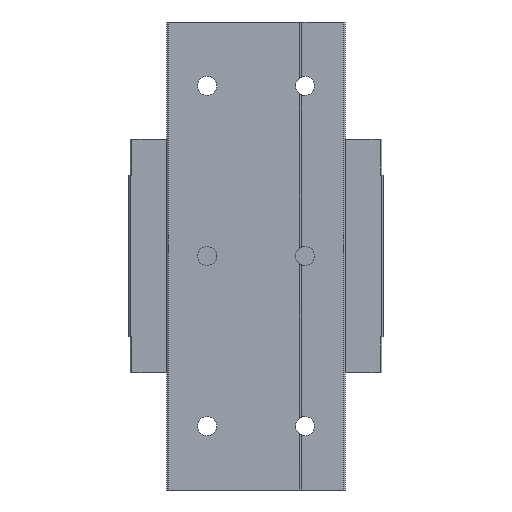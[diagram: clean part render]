
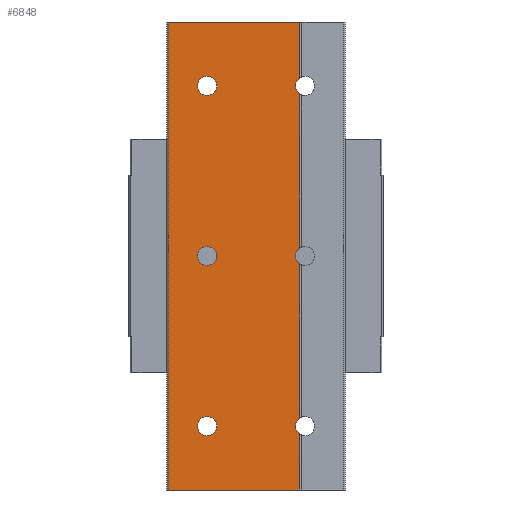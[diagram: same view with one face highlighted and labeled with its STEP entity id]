
A CAD part, front view. The second image highlights one B-rep face of the part: STEP entity #6848.
In plain terms, the highlighted planar face has unit normal (0, -1, 0).
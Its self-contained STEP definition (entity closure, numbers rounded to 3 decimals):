
#157 = ORIENTED_EDGE ( 'NONE', *, *, #9334, .F. ) ;
#233 = DIRECTION ( 'NONE',  ( 0., 0., -1. ) ) ;
#303 = AXIS2_PLACEMENT_3D ( 'NONE', #2721, #11395, #2652 ) ;
#375 = CARTESIAN_POINT ( 'NONE',  ( -20.6, 0., -55. ) ) ;
#387 = VERTEX_POINT ( 'NONE', #5802 ) ;
#409 = LINE ( 'NONE', #4240, #6664 ) ;
#447 = ORIENTED_EDGE ( 'NONE', *, *, #6273, .F. ) ;
#550 = CIRCLE ( 'NONE', #7688, 2.25 ) ;
#596 = CARTESIAN_POINT ( 'NONE',  ( -11.5, 0., 42.25 ) ) ;
#599 = CARTESIAN_POINT ( 'NONE',  ( -20.6, 0., 55. ) ) ;
#718 = LINE ( 'NONE', #4361, #11536 ) ;
#725 = ORIENTED_EDGE ( 'NONE', *, *, #1081, .F. ) ;
#746 = VECTOR ( 'NONE', #8224, 1000. ) ;
#835 = DIRECTION ( 'NONE',  ( 0., -1., 0. ) ) ;
#853 = FACE_BOUND ( 'NONE', #8776, .T. ) ;
#896 = EDGE_CURVE ( 'NONE', #6120, #7391, #4364, .T. ) ;
#909 = DIRECTION ( 'NONE',  ( 0., -1., 0. ) ) ;
#984 = CIRCLE ( 'NONE', #8085, 2.25 ) ;
#1081 = EDGE_CURVE ( 'NONE', #5813, #3302, #3159, .T. ) ;
#1279 = CARTESIAN_POINT ( 'NONE',  ( -11.5, 0., -37.75 ) ) ;
#1391 = EDGE_CURVE ( 'NONE', #2455, #7391, #718, .T. ) ;
#1598 = LINE ( 'NONE', #10388, #10769 ) ;
#1608 = AXIS2_PLACEMENT_3D ( 'NONE', #3996, #3035, #10811 ) ;
#1775 = AXIS2_PLACEMENT_3D ( 'NONE', #11307, #909, #3575 ) ;
#2102 = EDGE_CURVE ( 'NONE', #5048, #2455, #10487, .T. ) ;
#2433 = EDGE_CURVE ( 'NONE', #387, #6428, #3399, .T. ) ;
#2440 = AXIS2_PLACEMENT_3D ( 'NONE', #11631, #5868, #4945 ) ;
#2452 = CARTESIAN_POINT ( 'NONE',  ( 10.5, 0., 55. ) ) ;
#2455 = VERTEX_POINT ( 'NONE', #375 ) ;
#2465 = DIRECTION ( 'NONE',  ( 0., -1., 0. ) ) ;
#2652 = DIRECTION ( 'NONE',  ( 0., 0., -1. ) ) ;
#2679 = AXIS2_PLACEMENT_3D ( 'NONE', #4859, #6617, #7636 ) ;
#2721 = CARTESIAN_POINT ( 'NONE',  ( -11.5, 0., -40. ) ) ;
#2812 = VERTEX_POINT ( 'NONE', #10857 ) ;
#2831 = EDGE_LOOP ( 'NONE', ( #447, #725 ) ) ;
#2941 = FACE_BOUND ( 'NONE', #2831, .T. ) ;
#2949 = VERTEX_POINT ( 'NONE', #5739 ) ;
#2977 = EDGE_CURVE ( 'NONE', #5124, #5769, #550, .T. ) ;
#3035 = DIRECTION ( 'NONE',  ( 0., -1., 0. ) ) ;
#3109 = CARTESIAN_POINT ( 'NONE',  ( -11.5, 0., 40. ) ) ;
#3159 = CIRCLE ( 'NONE', #303, 2.25 ) ;
#3173 = VERTEX_POINT ( 'NONE', #596 ) ;
#3302 = VERTEX_POINT ( 'NONE', #4327 ) ;
#3399 = CIRCLE ( 'NONE', #9288, 2.25 ) ;
#3411 = DIRECTION ( 'NONE',  ( 0., 0., -1. ) ) ;
#3521 = EDGE_CURVE ( 'NONE', #5769, #5048, #5953, .T. ) ;
#3575 = DIRECTION ( 'NONE',  ( 0., 0., -1. ) ) ;
#3660 = EDGE_LOOP ( 'NONE', ( #5661, #10052 ) ) ;
#3708 = ORIENTED_EDGE ( 'NONE', *, *, #8954, .F. ) ;
#3711 = DIRECTION ( 'NONE',  ( 0., -1., 0. ) ) ;
#3996 = CARTESIAN_POINT ( 'NONE',  ( -11.5, 0., -40. ) ) ;
#4240 = CARTESIAN_POINT ( 'NONE',  ( 10.2, 0., 55. ) ) ;
#4327 = CARTESIAN_POINT ( 'NONE',  ( -11.5, 0., -42.25 ) ) ;
#4361 = CARTESIAN_POINT ( 'NONE',  ( -20.6, 0., 55. ) ) ;
#4364 = LINE ( 'NONE', #2452, #746 ) ;
#4574 = CARTESIAN_POINT ( 'NONE',  ( 10.2, 0., -1.836 ) ) ;
#4730 = DIRECTION ( 'NONE',  ( 0., 0., -1. ) ) ;
#4851 = VERTEX_POINT ( 'NONE', #6610 ) ;
#4859 = CARTESIAN_POINT ( 'NONE',  ( 11.5, 0., 40. ) ) ;
#4945 = DIRECTION ( 'NONE',  ( 1., 0., 0. ) ) ;
#5048 = VERTEX_POINT ( 'NONE', #8188 ) ;
#5124 = VERTEX_POINT ( 'NONE', #6401 ) ;
#5343 = DIRECTION ( 'NONE',  ( 0., 0., -1. ) ) ;
#5448 = ORIENTED_EDGE ( 'NONE', *, *, #2977, .F. ) ;
#5563 = CARTESIAN_POINT ( 'NONE',  ( 10.2, 0., 55. ) ) ;
#5649 = DIRECTION ( 'NONE',  ( -1., 0., 0. ) ) ;
#5661 = ORIENTED_EDGE ( 'NONE', *, *, #9418, .F. ) ;
#5711 = CIRCLE ( 'NONE', #1608, 2.25 ) ;
#5737 = VECTOR ( 'NONE', #8612, 1000. ) ;
#5739 = CARTESIAN_POINT ( 'NONE',  ( 10.2, 0., 1.836 ) ) ;
#5769 = VERTEX_POINT ( 'NONE', #10984 ) ;
#5802 = CARTESIAN_POINT ( 'NONE',  ( -11.5, 0., 2.25 ) ) ;
#5813 = VERTEX_POINT ( 'NONE', #1279 ) ;
#5868 = DIRECTION ( 'NONE',  ( 0., 1., 0. ) ) ;
#5953 = LINE ( 'NONE', #9378, #5737 ) ;
#6120 = VERTEX_POINT ( 'NONE', #8567 ) ;
#6273 = EDGE_CURVE ( 'NONE', #3302, #5813, #5711, .T. ) ;
#6323 = DIRECTION ( 'NONE',  ( 0., 0., 1. ) ) ;
#6328 = ORIENTED_EDGE ( 'NONE', *, *, #8552, .F. ) ;
#6401 = CARTESIAN_POINT ( 'NONE',  ( 10.2, 0., -38.164 ) ) ;
#6428 = VERTEX_POINT ( 'NONE', #8051 ) ;
#6464 = CARTESIAN_POINT ( 'NONE',  ( 10.5, 0., -55. ) ) ;
#6610 = CARTESIAN_POINT ( 'NONE',  ( 10.2, 0., 38.164 ) ) ;
#6617 = DIRECTION ( 'NONE',  ( 0., -1., 0. ) ) ;
#6664 = VECTOR ( 'NONE', #3411, 1000. ) ;
#6691 = CARTESIAN_POINT ( 'NONE',  ( -11.5, 0., 37.75 ) ) ;
#6702 = ORIENTED_EDGE ( 'NONE', *, *, #7843, .F. ) ;
#6848 = ADVANCED_FACE ( 'NONE', ( #853, #11496, #2941, #8648 ), #7713, .F. ) ;
#6859 = AXIS2_PLACEMENT_3D ( 'NONE', #7649, #3711, #7396 ) ;
#7342 = CIRCLE ( 'NONE', #2679, 2.25 ) ;
#7391 = VERTEX_POINT ( 'NONE', #599 ) ;
#7396 = DIRECTION ( 'NONE',  ( 0., 0., -1. ) ) ;
#7636 = DIRECTION ( 'NONE',  ( 0., 0., -1. ) ) ;
#7649 = CARTESIAN_POINT ( 'NONE',  ( -11.5, 0., 40. ) ) ;
#7688 = AXIS2_PLACEMENT_3D ( 'NONE', #9538, #835, #4730 ) ;
#7713 = PLANE ( 'NONE',  #2440 ) ;
#7843 = EDGE_CURVE ( 'NONE', #2812, #4851, #7342, .T. ) ;
#7853 = VERTEX_POINT ( 'NONE', #6691 ) ;
#8051 = CARTESIAN_POINT ( 'NONE',  ( -11.5, 0., -2.25 ) ) ;
#8077 = CIRCLE ( 'NONE', #10317, 2.25 ) ;
#8085 = AXIS2_PLACEMENT_3D ( 'NONE', #3109, #8955, #233 ) ;
#8115 = CARTESIAN_POINT ( 'NONE',  ( 11.5, 0., 0. ) ) ;
#8188 = CARTESIAN_POINT ( 'NONE',  ( 10.2, 0., -55. ) ) ;
#8224 = DIRECTION ( 'NONE',  ( -1., 0., 0. ) ) ;
#8535 = EDGE_CURVE ( 'NONE', #2949, #9051, #8077, .T. ) ;
#8552 = EDGE_CURVE ( 'NONE', #6120, #2812, #409, .T. ) ;
#8567 = CARTESIAN_POINT ( 'NONE',  ( 10.2, 0., 55. ) ) ;
#8603 = ORIENTED_EDGE ( 'NONE', *, *, #11929, .F. ) ;
#8612 = DIRECTION ( 'NONE',  ( 0., 0., -1. ) ) ;
#8648 = FACE_OUTER_BOUND ( 'NONE', #9036, .T. ) ;
#8654 = DIRECTION ( 'NONE',  ( 0., 0., -1. ) ) ;
#8776 = EDGE_LOOP ( 'NONE', ( #157, #3708 ) ) ;
#8862 = ORIENTED_EDGE ( 'NONE', *, *, #8535, .F. ) ;
#8902 = DIRECTION ( 'NONE',  ( 0., 0., -1. ) ) ;
#8954 = EDGE_CURVE ( 'NONE', #3173, #7853, #984, .T. ) ;
#8955 = DIRECTION ( 'NONE',  ( 0., -1., 0. ) ) ;
#9036 = EDGE_LOOP ( 'NONE', ( #5448, #8603, #8862, #11339, #6702, #6328, #11132, #11644, #9553, #12532 ) ) ;
#9051 = VERTEX_POINT ( 'NONE', #4574 ) ;
#9101 = DIRECTION ( 'NONE',  ( 0., -1., 0. ) ) ;
#9288 = AXIS2_PLACEMENT_3D ( 'NONE', #11815, #9101, #8902 ) ;
#9334 = EDGE_CURVE ( 'NONE', #7853, #3173, #10111, .T. ) ;
#9378 = CARTESIAN_POINT ( 'NONE',  ( 10.2, 0., 55. ) ) ;
#9418 = EDGE_CURVE ( 'NONE', #6428, #387, #10309, .T. ) ;
#9538 = CARTESIAN_POINT ( 'NONE',  ( 11.5, 0., -40. ) ) ;
#9553 = ORIENTED_EDGE ( 'NONE', *, *, #2102, .F. ) ;
#9565 = LINE ( 'NONE', #5563, #12595 ) ;
#10052 = ORIENTED_EDGE ( 'NONE', *, *, #2433, .F. ) ;
#10076 = EDGE_CURVE ( 'NONE', #4851, #2949, #9565, .T. ) ;
#10111 = CIRCLE ( 'NONE', #6859, 2.25 ) ;
#10302 = VECTOR ( 'NONE', #5649, 1000. ) ;
#10309 = CIRCLE ( 'NONE', #1775, 2.25 ) ;
#10317 = AXIS2_PLACEMENT_3D ( 'NONE', #8115, #2465, #5343 ) ;
#10388 = CARTESIAN_POINT ( 'NONE',  ( 10.2, 0., 55. ) ) ;
#10487 = LINE ( 'NONE', #6464, #10302 ) ;
#10769 = VECTOR ( 'NONE', #11489, 1000. ) ;
#10811 = DIRECTION ( 'NONE',  ( 0., 0., -1. ) ) ;
#10857 = CARTESIAN_POINT ( 'NONE',  ( 10.2, 0., 41.836 ) ) ;
#10984 = CARTESIAN_POINT ( 'NONE',  ( 10.2, 0., -41.836 ) ) ;
#11132 = ORIENTED_EDGE ( 'NONE', *, *, #896, .T. ) ;
#11307 = CARTESIAN_POINT ( 'NONE',  ( -11.5, 0., 0. ) ) ;
#11339 = ORIENTED_EDGE ( 'NONE', *, *, #10076, .F. ) ;
#11395 = DIRECTION ( 'NONE',  ( 0., -1., 0. ) ) ;
#11489 = DIRECTION ( 'NONE',  ( 0., 0., -1. ) ) ;
#11496 = FACE_BOUND ( 'NONE', #3660, .T. ) ;
#11536 = VECTOR ( 'NONE', #6323, 1000. ) ;
#11631 = CARTESIAN_POINT ( 'NONE',  ( -21., 0., 55. ) ) ;
#11644 = ORIENTED_EDGE ( 'NONE', *, *, #1391, .F. ) ;
#11815 = CARTESIAN_POINT ( 'NONE',  ( -11.5, 0., 0. ) ) ;
#11929 = EDGE_CURVE ( 'NONE', #9051, #5124, #1598, .T. ) ;
#12532 = ORIENTED_EDGE ( 'NONE', *, *, #3521, .F. ) ;
#12595 = VECTOR ( 'NONE', #8654, 1000. ) ;
